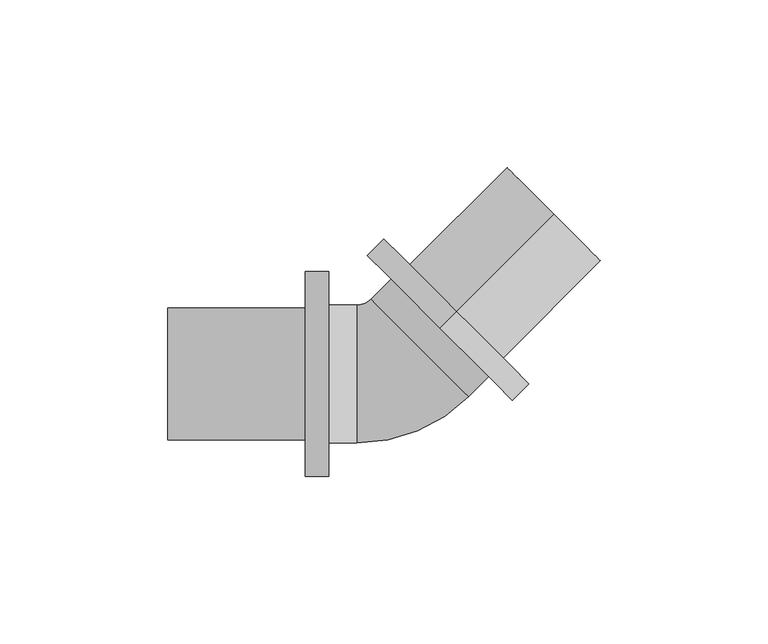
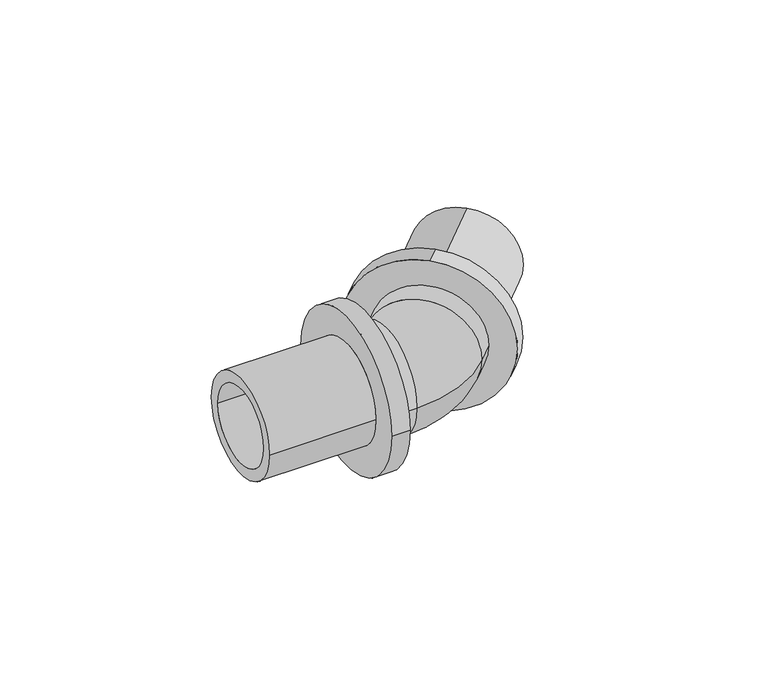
"""IFC4 building model written with IfcOpenShell, lengths in millimetres: pipe fitting geometry, RAUTITAN_Corner_RX+ : RTI RX+ C DE."""

from ifc_helpers import new_model, si_unit, point, frame, origin, place, context, project, spatial, polyline, circle_curve, ellipse_curve, trimmed, source, transform, mapped, element, save
from ifc_brep_helpers import plane_surface, cylinder_surface, revolved_surface, advanced_brep


def pipe_fitting_66fdde34(model_context):
    return source(origin(), model_context, "Body", "AdvancedBrep", [
        advanced_brep(
        [(-19.4, 20.55, 0.0), (-19.4, -20.55, 0.0), (-19.4, 15.25, 0.0), (-19.4, -15.25, 0.0), (-10.9766594, -15.25, 0.0), (-10.9766594, 15.25, 0.0), (-10.9766594, -20.55, 0.0), (-10.9766594, 20.55, 0.0), (28.2489159, -0.8131728, 0.0), (-0.8131728, 28.2489159, 0.0), (24.50125, 2.9344931, 0.0), (2.9344931, 24.50125, 0.0), (-3.0217081, 18.5450487, 0.0), (18.5450487, -3.0217081, 0.0), (-6.7693741, 22.2927147, 0.0), (22.2927147, -6.7693741, 0.0)],
        [
            (0, 1, circle_curve(frame((-19.4, 0.0, 0.0), z_axis=(-1.0, 0.0, 0.0), x_axis=(0.0, -1.0, 0.0)), 20.55)),
            (1, 0, circle_curve(frame((-19.4, 0.0, 0.0), z_axis=(-1.0, 0.0, 0.0), x_axis=(0.0, -1.0, 0.0)), 20.55)),
            (2, 3, circle_curve(frame((-19.4, 0.0, 0.0), z_axis=(1.0, 0.0, 0.0), x_axis=(0.0, -1.0, 0.0)), 15.25)),
            (3, 2, circle_curve(frame((-19.4, 0.0, 0.0), z_axis=(1.0, 0.0, 0.0), x_axis=(0.0, -1.0, 0.0)), 15.25)),
            (3, 4),
            (4, 5, circle_curve(frame((-10.9766594, 0.0, 0.0), z_axis=(1.0, 0.0, 0.0), x_axis=(0.0, -1.0, 0.0)), 15.25)),
            (5, 2),
            (5, 4, circle_curve(frame((-10.9766594, 0.0, 0.0), z_axis=(1.0, 0.0, 0.0), x_axis=(0.0, -1.0, 0.0)), 15.25)),
            (1, 6),
            (6, 7, circle_curve(frame((-10.9766594, 0.0, 0.0), z_axis=(-1.0, 0.0, 0.0), x_axis=(0.0, -1.0, 0.0)), 20.55)),
            (7, 0),
            (7, 6, circle_curve(frame((-10.9766594, 0.0, 0.0), z_axis=(-1.0, 0.0, 0.0), x_axis=(0.0, -1.0, 0.0)), 20.55)),
            (8, 9, circle_curve(frame((13.7178716, 13.7178716, 0.0), z_axis=(0.707106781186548, 0.707106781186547, 0.0), x_axis=(-0.707106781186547, 0.707106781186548, 0.0)), 20.55)),
            (9, 8, circle_curve(frame((13.7178716, 13.7178716, 0.0), z_axis=(0.707106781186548, 0.707106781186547, 0.0), x_axis=(-0.707106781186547, 0.707106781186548, 0.0)), 20.55)),
            (10, 11, circle_curve(frame((13.7178716, 13.7178716, 0.0), z_axis=(-0.707106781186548, -0.707106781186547, 0.0), x_axis=(-0.707106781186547, 0.707106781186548, 0.0)), 15.25)),
            (11, 10, circle_curve(frame((13.7178716, 13.7178716, 0.0), z_axis=(-0.707106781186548, -0.707106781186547, 0.0), x_axis=(-0.707106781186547, 0.707106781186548, 0.0)), 15.25)),
            (11, 12),
            (12, 13, circle_curve(frame((7.7616703, 7.7616703, 0.0), z_axis=(-0.707106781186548, -0.707106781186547, 0.0), x_axis=(-0.707106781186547, 0.707106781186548, 0.0)), 15.25)),
            (13, 10),
            (13, 12, circle_curve(frame((7.7616703, 7.7616703, 0.0), z_axis=(-0.707106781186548, -0.707106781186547, 0.0), x_axis=(-0.707106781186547, 0.707106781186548, 0.0)), 15.25)),
            (9, 14),
            (14, 15, circle_curve(frame((7.7616703, 7.7616703, 0.0), z_axis=(0.707106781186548, 0.707106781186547, 0.0), x_axis=(-0.707106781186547, 0.707106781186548, 0.0)), 20.55)),
            (15, 8),
            (15, 14, circle_curve(frame((7.7616703, 7.7616703, 0.0), z_axis=(0.707106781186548, 0.707106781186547, 0.0), x_axis=(-0.707106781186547, 0.707106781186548, 0.0)), 20.55)),
            (12, 5, circle_curve(frame((-10.9766594, 26.5, 0.0), z_axis=(0.0, 0.0, -1.0), x_axis=(0.0, -1.0, 0.0)), 11.25)),
            (4, 13, circle_curve(frame((-10.9766594, 26.5, 0.0), z_axis=(0.0, 0.0, 1.0), x_axis=(0.0, -1.0, 0.0)), 41.75)),
            (14, 7, circle_curve(frame((-10.9766594, 26.5, 0.0), z_axis=(0.0, 0.0, -1.0), x_axis=(0.0, -1.0, 0.0)), 5.95)),
            (6, 15, circle_curve(frame((-10.9766594, 26.5, 0.0), z_axis=(0.0, 0.0, 1.0), x_axis=(0.0, -1.0, 0.0)), 47.05)),
        ],
        [
            plane_surface(frame((-19.4, 0.0, 0.0), z_axis=(-1.0, 0.0, 0.0), x_axis=(0.0, 0.0, 1.0))),
            revolved_surface(polyline([(-19.4, -15.25, 0.0), (-10.9766594, -15.25, 0.0)]), (-10.9766594, 0.0, 0.0), (-1.0, 0.0, 0.0)),
            cylinder_surface(frame((-10.9766594, 0.0, 0.0), z_axis=(1.0, 0.0, 0.0), x_axis=(0.0, -1.0, 0.0)), 20.55),
            plane_surface(frame((13.7178716, 13.7178716, 0.0), z_axis=(0.707106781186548, 0.707106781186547, 0.0), x_axis=(0.0, 0.0, 1.0))),
            revolved_surface(polyline([(2.9344931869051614, 24.501250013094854, 0.0), (-3.0217081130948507, 18.54504871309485, 0.0)]), (7.7616703, 7.7616703, 0.0), (0.707106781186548, 0.707106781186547, 0.0)),
            cylinder_surface(frame((7.7616703, 7.7616703, 0.0), z_axis=(-0.707106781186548, -0.707106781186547, 0.0), x_axis=(-0.707106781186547, 0.707106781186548, 0.0)), 20.55),
            revolved_surface(trimmed(ellipse_curve(frame((-10.9766594, 0.0, 0.0), z_axis=(1.0000000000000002, 0.0, 0.0), x_axis=(0.0, 1.0, 0.0)), 15.25, 15.25), [point((-10.9766594, -15.25, 0.0))], [point((-10.9766594, 15.25, 0.0))], True, "CARTESIAN"), (-10.9766594, 26.5, 0.0), (0.0, 0.0, 1.0000000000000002)),
            revolved_surface(trimmed(ellipse_curve(frame((-10.9766594, 0.0, 0.0), z_axis=(1.0000000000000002, 0.0, 0.0), x_axis=(0.0, 1.0, 0.0)), 15.25, 15.25), [point((-10.9766594, 15.25, 0.0))], [point((-10.9766594, -15.25, 0.0))], True, "CARTESIAN"), (-10.9766594, 26.5, 0.0), (0.0, 0.0, 1.0000000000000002)),
            revolved_surface(trimmed(ellipse_curve(frame((-10.9766594, 0.0, 0.0), z_axis=(-1.0000000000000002, 0.0, 0.0), x_axis=(0.0, 1.0, 0.0)), 20.55, 20.55), [point((-10.9766594, -20.55, 0.0))], [point((-10.9766594, 20.55, 0.0))], True, "CARTESIAN"), (-10.9766594, 26.5, 0.0), (0.0, 0.0, 1.0000000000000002)),
            revolved_surface(trimmed(ellipse_curve(frame((-10.9766594, 0.0, 0.0), z_axis=(-1.0000000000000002, 0.0, 0.0), x_axis=(0.0, 1.0, 0.0)), 20.55, 20.55), [point((-10.9766594, 20.55, 0.0))], [point((-10.9766594, -20.55, 0.0))], True, "CARTESIAN"), (-10.9766594, 26.5, 0.0), (0.0, 0.0, 1.0000000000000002)),
        ],
        [
            (0, [[1, 2], [3, 4]]),
            (1, [[-4, 5, 6, 7]]),
            (1, [[-3, -7, 8, -5]]),
            (2, [[-2, 9, 10, 11]]),
            (2, [[-1, -11, 12, -9]]),
            (3, [[13, 14], [15, 16]]),
            (4, [[-16, 17, 18, 19]]),
            (4, [[-15, -19, 20, -17]]),
            (5, [[-14, 21, 22, 23]]),
            (5, [[-13, -23, 24, -21]]),
            (6, [[25, -6, 26, -18]]),
            (7, [[-25, -20, -26, -8]]),
            (8, [[27, -10, 28, -22]]),
            (9, [[-27, -24, -28, -12]]),
        ],
    ),
        advanced_brep(
        [(-26.4, -30.55, 0.0), (-26.4, 30.55, 0.0), (-19.4, 30.55, 0.0), (-19.4, -30.55, 0.0), (-67.4, -19.65, 0.0), (-67.4, 19.65, 0.0), (-26.4, 19.65, 0.0), (-26.4, -19.65, 0.0), (-19.4, -15.25, 0.0), (-19.4, 15.25, 0.0), (-67.4, 15.25, 0.0), (-67.4, -15.25, 0.0)],
        [
            (0, 1, circle_curve(frame((-26.4, 0.0, 0.0), z_axis=(1.0, 0.0, 0.0), x_axis=(0.0, 1.0, 0.0)), 30.55)),
            (1, 2),
            (2, 3, circle_curve(frame((-19.4, 0.0, 0.0), z_axis=(-1.0, 0.0, 0.0), x_axis=(0.0, 1.0, 0.0)), 30.55)),
            (3, 0),
            (4, 5, circle_curve(frame((-67.4, 0.0, 0.0), z_axis=(1.0, 0.0, 0.0), x_axis=(0.0, 1.0, 0.0)), 19.65)),
            (5, 6),
            (6, 7, circle_curve(frame((-26.4, 0.0, 0.0), z_axis=(-1.0, 0.0, 0.0), x_axis=(0.0, 1.0, 0.0)), 19.65)),
            (7, 4),
            (8, 9, circle_curve(frame((-19.4, 0.0, 0.0), z_axis=(1.0, 0.0, 0.0), x_axis=(0.0, 1.0, 0.0)), 15.25)),
            (9, 10),
            (10, 11, circle_curve(frame((-67.4, 0.0, 0.0), z_axis=(-1.0, 0.0, 0.0), x_axis=(0.0, 1.0, 0.0)), 15.25)),
            (11, 8),
            (1, 0, circle_curve(frame((-26.4, 0.0, 0.0), z_axis=(1.0, 0.0, 0.0), x_axis=(0.0, -1.0, 0.0)), 30.55)),
            (3, 2, circle_curve(frame((-19.4, 0.0, 0.0), z_axis=(-1.0, 0.0, 0.0), x_axis=(0.0, -1.0, 0.0)), 30.55)),
            (6, 7, circle_curve(frame((-26.4, 0.0, 0.0), z_axis=(1.0, 0.0, 0.0), x_axis=(0.0, -1.0, 0.0)), 19.65)),
            (5, 4, circle_curve(frame((-67.4, 0.0, 0.0), z_axis=(1.0, 0.0, 0.0), x_axis=(0.0, -1.0, 0.0)), 19.65)),
            (10, 11, circle_curve(frame((-67.4, 0.0, 0.0), z_axis=(1.0, 0.0, 0.0), x_axis=(0.0, -1.0, 0.0)), 15.25)),
            (9, 8, circle_curve(frame((-19.4, 0.0, 0.0), z_axis=(1.0, 0.0, 0.0), x_axis=(0.0, -1.0, 0.0)), 15.25)),
        ],
        [
            cylinder_surface(frame((-19.4, 0.0, 0.0), z_axis=(-1.0, 0.0, 0.0), x_axis=(0.0, 1.0, 0.0)), 30.55),
            cylinder_surface(frame((-19.4, 0.0, 0.0), z_axis=(-1.0, 0.0, 0.0), x_axis=(0.0, 1.0, 0.0)), 19.65),
            revolved_surface(polyline([(-67.4, 15.25, 0.0), (-19.4, 15.25, 0.0)]), (-19.4, 0.0, 0.0), (-1.0, 0.0, 0.0)),
            cylinder_surface(frame((-19.4, 0.0, 0.0), z_axis=(-1.0, 0.0, 0.0), x_axis=(0.0, -1.0, 0.0)), 30.55),
            plane_surface(frame((-26.4, 0.0, 0.0), z_axis=(-1.0, 0.0, 0.0), x_axis=(0.0, -1.0, 0.0))),
            cylinder_surface(frame((-19.4, 0.0, 0.0), z_axis=(-1.0, 0.0, 0.0), x_axis=(0.0, -1.0, 0.0)), 19.65),
            plane_surface(frame((-67.4, 0.0, 0.0), z_axis=(-1.0, 0.0, 0.0), x_axis=(0.0, -1.0, 0.0))),
            revolved_surface(polyline([(-67.4, -15.25, 0.0), (-19.4, -15.25, 0.0)]), (-19.4, 0.0, 0.0), (-1.0, 0.0, 0.0)),
            plane_surface(frame((-19.4, 0.0, 0.0), z_axis=(1.0, 0.0, 0.0), x_axis=(0.0, -1.0, 0.0))),
        ],
        [
            (0, [[1, 2, 3, 4]]),
            (1, [[5, 6, 7, 8]]),
            (2, [[9, 10, 11, 12]]),
            (3, [[13, -4, 14, -2]]),
            (4, [[-13, -1], [15, -7]]),
            (5, [[16, -8, -15, -6]]),
            (6, [[-16, -5], [17, -11]]),
            (7, [[18, -12, -17, -10]]),
            (8, [[-14, -3], [-18, -9]]),
        ],
    ),
        advanced_brep(
        [(18.667619, 18.667619, 30.9749044), (18.667619, 18.667619, -30.1250956), (13.7178716, 13.7178716, -30.1250956), (13.7178716, 13.7178716, 30.9749044), (47.6589971, 47.6589971, 20.0749044), (47.6589971, 47.6589971, -19.2250956), (18.667619, 18.667619, -19.2250956), (18.667619, 18.667619, 20.0749044), (13.7178716, 13.7178716, 15.6749044), (13.7178716, 13.7178716, -14.8250956), (47.6589971, 47.6589971, -14.8250956), (47.6589971, 47.6589971, 15.6749044)],
        [
            (0, 1, circle_curve(frame((18.667619, 18.667619, 0.4249044), z_axis=(-0.7071067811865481, -0.707106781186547, 0.0), x_axis=(0.0, 0.0, -1.0)), 30.55)),
            (1, 2),
            (2, 3, circle_curve(frame((13.7178716, 13.7178716, 0.4249044), z_axis=(0.7071067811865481, 0.707106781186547, 0.0), x_axis=(0.0, 0.0, -1.0)), 30.55)),
            (3, 0),
            (4, 5, circle_curve(frame((47.6589971, 47.6589971, 0.4249044), z_axis=(-0.7071067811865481, -0.707106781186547, 0.0), x_axis=(0.0, 0.0, -1.0)), 19.65)),
            (5, 6),
            (6, 7, circle_curve(frame((18.667619, 18.667619, 0.4249044), z_axis=(0.7071067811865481, 0.707106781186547, 0.0), x_axis=(0.0, 0.0, -1.0)), 19.65)),
            (7, 4),
            (8, 9, circle_curve(frame((13.7178716, 13.7178716, 0.4249044), z_axis=(-0.7071067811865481, -0.707106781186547, 0.0), x_axis=(0.0, 0.0, -1.0)), 15.25)),
            (9, 10),
            (10, 11, circle_curve(frame((47.6589971, 47.6589971, 0.4249044), z_axis=(0.7071067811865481, 0.707106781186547, 0.0), x_axis=(0.0, 0.0, -1.0)), 15.25)),
            (11, 8),
            (1, 0, circle_curve(frame((18.667619, 18.667619, 0.4249044), z_axis=(-0.7071067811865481, -0.707106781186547, 0.0), x_axis=(0.0, 0.0, 1.0)), 30.55)),
            (3, 2, circle_curve(frame((13.7178716, 13.7178716, 0.4249044), z_axis=(0.7071067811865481, 0.707106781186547, 0.0), x_axis=(0.0, 0.0, 1.0)), 30.55)),
            (6, 7, circle_curve(frame((18.667619, 18.667619, 0.4249044), z_axis=(-0.7071067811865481, -0.707106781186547, 0.0), x_axis=(0.0, 0.0, 1.0)), 19.65)),
            (5, 4, circle_curve(frame((47.6589971, 47.6589971, 0.4249044), z_axis=(-0.7071067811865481, -0.707106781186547, 0.0), x_axis=(0.0, 0.0, 1.0)), 19.65)),
            (10, 11, circle_curve(frame((47.6589971, 47.6589971, 0.4249044), z_axis=(-0.7071067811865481, -0.707106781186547, 0.0), x_axis=(0.0, 0.0, 1.0)), 15.25)),
            (9, 8, circle_curve(frame((13.7178716, 13.7178716, 0.4249044), z_axis=(-0.7071067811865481, -0.707106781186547, 0.0), x_axis=(0.0, 0.0, 1.0)), 15.25)),
        ],
        [
            cylinder_surface(frame((13.7178716, 13.7178716, 0.4249044), z_axis=(0.7071067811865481, 0.707106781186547, 0.0), x_axis=(0.0, 0.0, -1.0)), 30.55),
            cylinder_surface(frame((13.7178716, 13.7178716, 0.4249044), z_axis=(0.7071067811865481, 0.707106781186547, 0.0), x_axis=(0.0, 0.0, -1.0)), 19.65),
            revolved_surface(polyline([(47.65899710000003, 47.65899709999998, -14.8250956), (13.7178716, 13.7178716, -14.8250956)]), (13.7178716, 13.7178716, 0.4249044), (0.7071067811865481, 0.707106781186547, 0.0)),
            cylinder_surface(frame((13.7178716, 13.7178716, 0.4249044), z_axis=(0.7071067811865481, 0.707106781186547, 0.0), x_axis=(0.0, 0.0, 1.0)), 30.55),
            plane_surface(frame((18.667619, 18.667619, 0.4249044), z_axis=(0.7071067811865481, 0.707106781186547, 0.0), x_axis=(0.0, 0.0, 1.0))),
            cylinder_surface(frame((13.7178716, 13.7178716, 0.4249044), z_axis=(0.7071067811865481, 0.707106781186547, 0.0), x_axis=(0.0, 0.0, 1.0)), 19.65),
            plane_surface(frame((47.6589971, 47.6589971, 0.4249044), z_axis=(0.7071067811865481, 0.707106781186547, 0.0), x_axis=(0.0, 0.0, 1.0))),
            revolved_surface(polyline([(47.65899710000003, 47.65899709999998, 15.6749044), (13.7178716, 13.7178716, 15.6749044)]), (13.7178716, 13.7178716, 0.4249044), (0.7071067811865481, 0.707106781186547, 0.0)),
            plane_surface(frame((13.7178716, 13.7178716, 0.4249044), z_axis=(-0.7071067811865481, -0.707106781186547, 0.0), x_axis=(0.0, 0.0, 1.0))),
        ],
        [
            (0, [[1, 2, 3, 4]]),
            (1, [[5, 6, 7, 8]]),
            (2, [[9, 10, 11, 12]]),
            (3, [[13, -4, 14, -2]]),
            (4, [[-13, -1], [15, -7]]),
            (5, [[16, -8, -15, -6]]),
            (6, [[-16, -5], [17, -11]]),
            (7, [[18, -12, -17, -10]]),
            (8, [[-14, -3], [-18, -9]]),
        ],
    ),
    ])


if __name__ == "__main__":
    model = new_model("IFC4")
    model_context = context("Model", 3, world=origin())
    ifc_project = project(units=[si_unit("LENGTHUNIT", "METRE", prefix="MILLI")], contexts=[model_context])
    site = spatial("IfcSite", under=ifc_project)
    building = spatial("IfcBuilding", under=site)
    placement = place(None, origin())
    pipe_fitting_shape = pipe_fitting_66fdde34(model_context)
    element("IfcPipeFitting", 1, ObjectType="RAUTITAN_Corner_RX+ : RTI RX+ C DE", at=placement, inside=building, context=model_context, shape_type="MappedRepresentation", body=[
        mapped(pipe_fitting_shape, transform((0.0, 0.0, 0.0), x_axis=(1.0, 0.0, 0.0), y_axis=(0.0, 1.0, 0.0), z_axis=(0.0, 0.0, 1.0))),
    ])
    save(model, "model.ifc")
